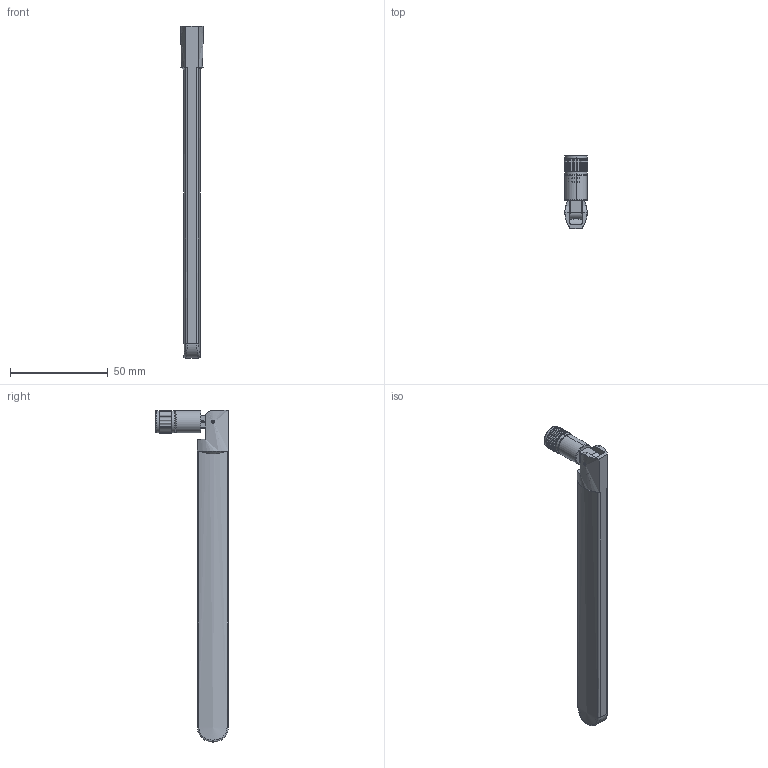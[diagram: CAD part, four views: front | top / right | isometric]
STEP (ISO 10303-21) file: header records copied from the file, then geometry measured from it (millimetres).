
FILE_DESCRIPTION (( 'STEP AP203' ), '1' );
FILE_NAME ('Cell Antenna.STEP', '2023-02-12T16:31:14', ( '' ), ( '' ), 'SwSTEP 2.0', 'SolidWorks 2015', '' );
FILE_SCHEMA (( 'CONFIG_CONTROL_DESIGN' ));
Length unit declared in the file: millimetre
Products named in the file (4): TipModemAntenna; Cell Antenna; Base Antenna; Rotation pin
Assembly tree (3 placements, depth 2):
  Cell Antenna
    TipModemAntenna
    Rotation pin
    Base Antenna
Bounding box: 12 x 37.33 x 170 mm (x, y, z)
Volume: 10311.9 mm3; surface area: 15129.2 mm2
Topology: 3 solids, 6 shells, 306 faces, 722 edges, 474 vertices
Faces by surface type: plane 134, cylinder 132, bspline 36, torus 4
Entity records: 12182 total; most frequent: CARTESIAN_POINT 4714, DIRECTION 1533, ORIENTED_EDGE 1444, EDGE_CURVE 722, AXIS2_PLACEMENT_3D 646, VERTEX_POINT 474, CIRCLE 370, EDGE_LOOP 366
